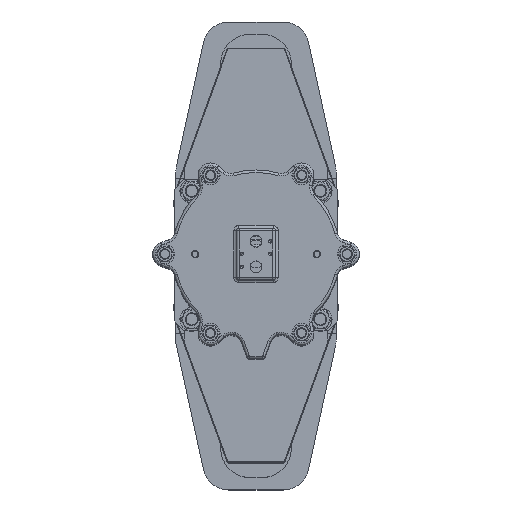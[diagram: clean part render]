
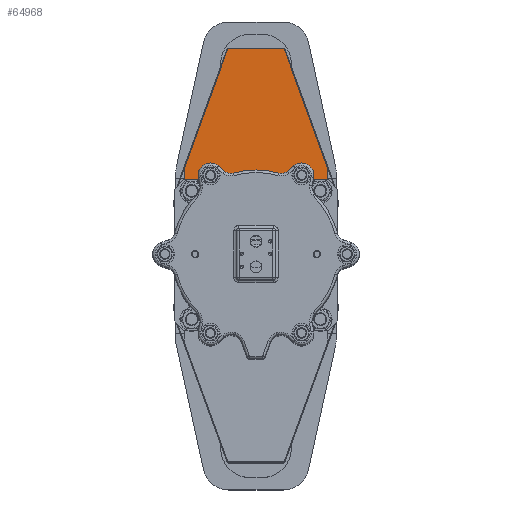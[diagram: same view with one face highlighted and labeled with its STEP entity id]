
A CAD part, top view. The second image highlights one B-rep face of the part: STEP entity #64968.
In plain terms, the highlighted planar face has unit normal (0, 0, 1).
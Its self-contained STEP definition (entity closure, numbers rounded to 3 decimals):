
#3663=LINE('',#100454,#8056);
#3667=LINE('',#100469,#8060);
#3668=LINE('',#100471,#8061);
#3669=LINE('',#100473,#8062);
#3670=LINE('',#100475,#8063);
#3671=LINE('',#100477,#8064);
#3672=LINE('',#100479,#8065);
#3673=LINE('',#100480,#8066);
#8056=VECTOR('',#78912,10.);
#8060=VECTOR('',#78932,10.);
#8061=VECTOR('',#78933,10.);
#8062=VECTOR('',#78934,10.);
#8063=VECTOR('',#78935,10.);
#8064=VECTOR('',#78936,10.);
#8065=VECTOR('',#78937,10.);
#8066=VECTOR('',#78938,10.);
#13410=FACE_OUTER_BOUND('',#17498,.T.);
#17498=EDGE_LOOP('',(#44421,#44422,#44423,#44424,#44425,#44426,#44427,#44428));
#27268=VERTEX_POINT('',#100452);
#27269=VERTEX_POINT('',#100453);
#27272=VERTEX_POINT('',#100468);
#27273=VERTEX_POINT('',#100470);
#27274=VERTEX_POINT('',#100472);
#27275=VERTEX_POINT('',#100474);
#27276=VERTEX_POINT('',#100476);
#27277=VERTEX_POINT('',#100478);
#33883=EDGE_CURVE('',#27268,#27269,#3663,.T.);
#33891=EDGE_CURVE('',#27272,#27268,#3667,.T.);
#33892=EDGE_CURVE('',#27273,#27272,#3668,.T.);
#33893=EDGE_CURVE('',#27274,#27273,#3669,.T.);
#33894=EDGE_CURVE('',#27275,#27274,#3670,.T.);
#33895=EDGE_CURVE('',#27276,#27275,#3671,.T.);
#33896=EDGE_CURVE('',#27277,#27276,#3672,.T.);
#33897=EDGE_CURVE('',#27269,#27277,#3673,.T.);
#44421=ORIENTED_EDGE('',*,*,#33891,.F.);
#44422=ORIENTED_EDGE('',*,*,#33892,.F.);
#44423=ORIENTED_EDGE('',*,*,#33893,.F.);
#44424=ORIENTED_EDGE('',*,*,#33894,.F.);
#44425=ORIENTED_EDGE('',*,*,#33895,.F.);
#44426=ORIENTED_EDGE('',*,*,#33896,.F.);
#44427=ORIENTED_EDGE('',*,*,#33897,.F.);
#44428=ORIENTED_EDGE('',*,*,#33883,.F.);
#63463=PLANE('',#69438);
#64968=ADVANCED_FACE('',(#13410),#63463,.F.);
#69438=AXIS2_PLACEMENT_3D('',#100467,#78930,#78931);
#78912=DIRECTION('',(1.,0.,0.));
#78930=DIRECTION('center_axis',(0.,0.,-1.));
#78931=DIRECTION('ref_axis',(0.,1.,0.));
#78932=DIRECTION('',(1.,0.,0.));
#78933=DIRECTION('',(0.342,0.94,0.));
#78934=DIRECTION('',(0.,1.,0.));
#78935=DIRECTION('',(-1.,0.,0.));
#78936=DIRECTION('',(0.,-1.,0.));
#78937=DIRECTION('',(0.342,-0.94,0.));
#78938=DIRECTION('',(1.,0.,0.));
#100452=CARTESIAN_POINT('',(-43.51,321.219,1316.7));
#100453=CARTESIAN_POINT('',(43.51,321.219,1316.7));
#100454=CARTESIAN_POINT('',(43.51,321.219,1316.7));
#100467=CARTESIAN_POINT('Origin',(0.,201.447,
1316.7));
#100468=CARTESIAN_POINT('',(-43.92,321.219,1316.7));
#100469=CARTESIAN_POINT('',(43.92,321.219,1316.7));
#100470=CARTESIAN_POINT('',(-111.,136.919,1316.7));
#100471=CARTESIAN_POINT('',(-43.92,321.219,1316.7));
#100472=CARTESIAN_POINT('',(-111.,117.919,1316.7));
#100473=CARTESIAN_POINT('',(-111.,136.919,1316.7));
#100474=CARTESIAN_POINT('',(111.,117.919,1316.7));
#100475=CARTESIAN_POINT('',(-111.,117.919,1316.7));
#100476=CARTESIAN_POINT('',(111.,136.919,1316.7));
#100477=CARTESIAN_POINT('',(111.,117.919,1316.7));
#100478=CARTESIAN_POINT('',(43.92,321.219,1316.7));
#100479=CARTESIAN_POINT('',(111.,136.919,1316.7));
#100480=CARTESIAN_POINT('',(43.92,321.219,1316.7));
